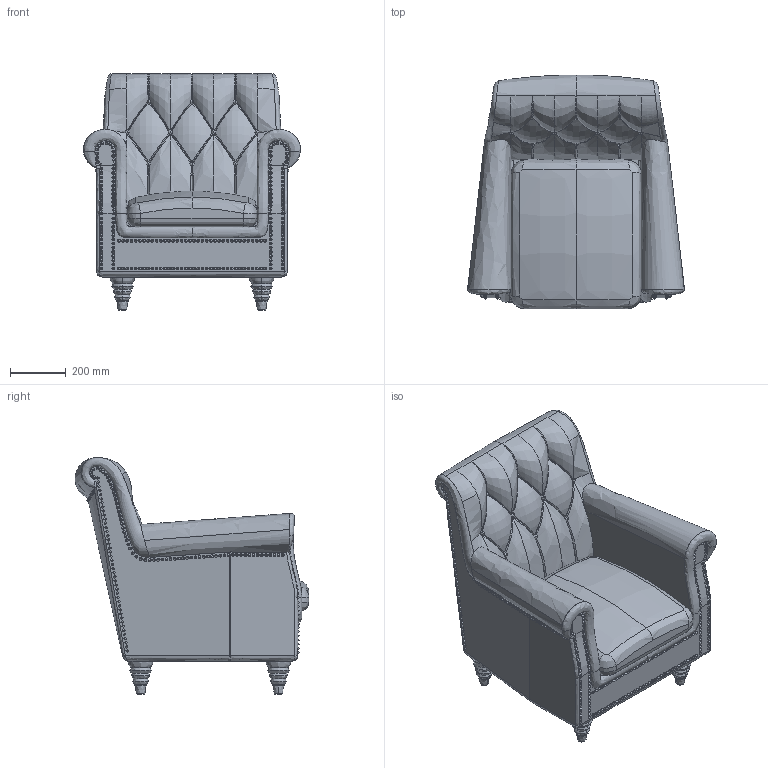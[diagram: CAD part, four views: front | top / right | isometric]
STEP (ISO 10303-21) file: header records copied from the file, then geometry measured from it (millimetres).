
FILE_DESCRIPTION(/* description */ (''),/* implementation_level */ '2;1');
FILE_NAME(/* name */ 'KINOSH~1',/* time_stamp */ '2018-07-31T15:12:32+09:00',/* author */ (''),/* organization */ (''),/* preprocessor_version */ 'ST-DEVELOPER v15',/* originating_system */ '',/* authorisation */ '');
FILE_SCHEMA (('AUTOMOTIVE_DESIGN'));
Products named in the file (87): Document; ﾌﾞﾛｯｸ 02; ﾌﾞﾛｯｸ 03; ﾌﾞﾛｯｸ 04; ﾌﾞﾛｯｸ 05; ﾌﾞﾛｯｸ 06; ﾌﾞﾛｯｸ 07; ﾌﾞﾛｯｸ 08; ﾌﾞﾛｯｸ 09; ﾌﾞﾛｯｸ 10; ﾌﾞﾛｯｸ 11; ﾌﾞﾛｯｸ 12; ﾌﾞﾛｯｸ 13; ﾌﾞﾛｯｸ 14; ﾌﾞﾛｯｸ 15; ﾌﾞﾛｯｸ 16; ﾌﾞﾛｯｸ 17; ﾌﾞﾛｯｸ 18; ﾌﾞﾛｯｸ 19; ﾌﾞﾛｯｸ 20; ﾌﾞﾛｯｸ 21; ﾌﾞﾛｯｸ 22; ﾌﾞﾛｯｸ 23; ﾌﾞﾛｯｸ 24; ﾌﾞﾛｯｸ 25; ﾌﾞﾛｯｸ 26; ﾌﾞﾛｯｸ 27; ﾌﾞﾛｯｸ 28; ﾌﾞﾛｯｸ 29; ﾌﾞﾛｯｸ 30; ﾌﾞﾛｯｸ 31; ﾌﾞﾛｯｸ 32; ﾌﾞﾛｯｸ 33; ﾌﾞﾛｯｸ 34; ﾌﾞﾛｯｸ 35; ﾌﾞﾛｯｸ 36; ﾌﾞﾛｯｸ 37; ﾌﾞﾛｯｸ 38; ﾌﾞﾛｯｸ 39; ﾌﾞﾛｯｸ 40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
Assembly tree (86 placements, depth 2):
  Document
    ﾌﾞﾛｯｸ 02
    ﾌﾞﾛｯｸ 03
    ﾌﾞﾛｯｸ 04
    ﾌﾞﾛｯｸ 05
    ﾌﾞﾛｯｸ 06
    ﾌﾞﾛｯｸ 07
    ﾌﾞﾛｯｸ 08
    ﾌﾞﾛｯｸ 09
    ﾌﾞﾛｯｸ 10
    ﾌﾞﾛｯｸ 11
    ﾌﾞﾛｯｸ 12
    ﾌﾞﾛｯｸ 13
    ﾌﾞﾛｯｸ 14
    ﾌﾞﾛｯｸ 15
    ﾌﾞﾛｯｸ 16
    ﾌﾞﾛｯｸ 17
    ﾌﾞﾛｯｸ 18
    ﾌﾞﾛｯｸ 19
    ﾌﾞﾛｯｸ 20
    ﾌﾞﾛｯｸ 21
    ﾌﾞﾛｯｸ 22
    ﾌﾞﾛｯｸ 23
    ﾌﾞﾛｯｸ 24
    ﾌﾞﾛｯｸ 25
    ﾌﾞﾛｯｸ 26
    ﾌﾞﾛｯｸ 27
    ﾌﾞﾛｯｸ 28
    ﾌﾞﾛｯｸ 29
    ﾌﾞﾛｯｸ 30
    ﾌﾞﾛｯｸ 31
    ﾌﾞﾛｯｸ 32
    ﾌﾞﾛｯｸ 33
    ﾌﾞﾛｯｸ 34
    ﾌﾞﾛｯｸ 35
    ﾌﾞﾛｯｸ 36
    ﾌﾞﾛｯｸ 37
    ﾌﾞﾛｯｸ 38
    ﾌﾞﾛｯｸ 39
    ﾌﾞﾛｯｸ 40
    ﾌﾞﾛｯｸ 41
    ﾌﾞﾛｯｸ 42
    ﾌﾞﾛｯｸ 43
    ﾌﾞﾛｯｸ 44
    ﾌﾞﾛｯｸ 45
    ﾌﾞﾛｯｸ 46
    ﾌﾞﾛｯｸ 47
    ﾌﾞﾛｯｸ 48
    ﾌﾞﾛｯｸ 49
    ﾌﾞﾛｯｸ 50
    ﾌﾞﾛｯｸ 51
    ﾌﾞﾛｯｸ 52
    ﾌﾞﾛｯｸ 53
    ﾌﾞﾛｯｸ 54
    ﾌﾞﾛｯｸ 55
    ﾌﾞﾛｯｸ 56
    ﾌﾞﾛｯｸ 57
    ﾌﾞﾛｯｸ 58
    ﾌﾞﾛｯｸ 59
    ﾌﾞﾛｯｸ 60
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Bounding box: 779.81 x 839.57 x 850.05 mm (x, y, z)
Volume: 28189228.9 mm3; surface area: 3760403.6 mm2
Topology: 374 solids, 550 shells, 2002 faces, 4921 edges, 2791 vertices
Faces by surface type: bspline 1598, plane 404
Entity records: 201196 total; most frequent: CARTESIAN_POINT 174108, ORIENTED_EDGE 7033, EDGE_CURVE 3979, VERTEX_POINT 2791, EDGE_LOOP 2006, ADVANCED_FACE 2002, FACE_OUTER_BOUND 2002, B_SPLINE_CURVE_WITH_KNOTS 1698
